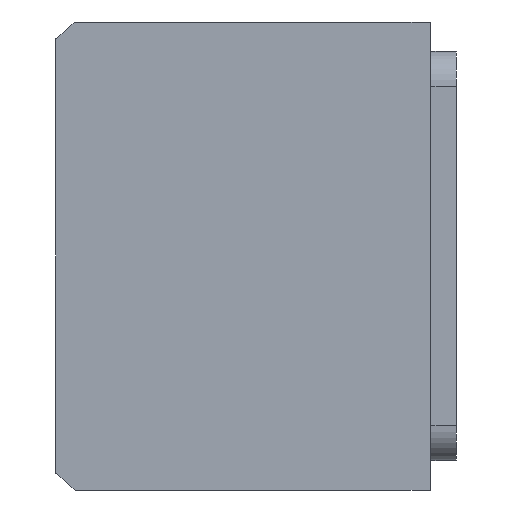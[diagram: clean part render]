
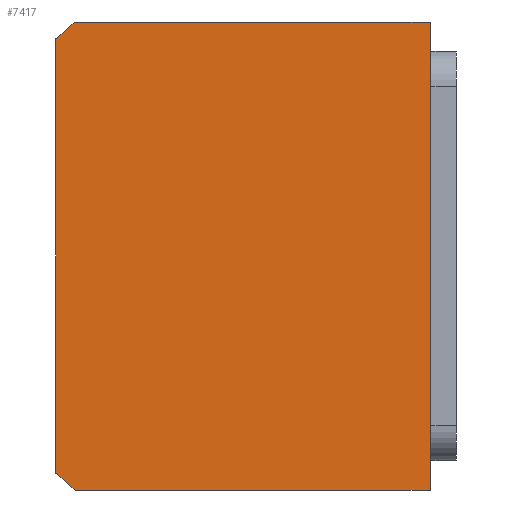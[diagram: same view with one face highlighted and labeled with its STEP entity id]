
A CAD part, front view. The second image highlights one B-rep face of the part: STEP entity #7417.
In plain terms, the highlighted planar face has unit normal (0, -1, 0) as drawn and (0, 0, -1) by its records, which use the part's own axes.
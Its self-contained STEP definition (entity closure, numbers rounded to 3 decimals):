
#253 = CARTESIAN_POINT ( 'NONE',  ( 40., 32., 0. ) ) ;
#295 = DIRECTION ( 'NONE',  ( 0., 1., 0. ) ) ;
#402 = DIRECTION ( 'NONE',  ( 1., 0., 0. ) ) ;
#966 = ORIENTED_EDGE ( 'NONE', *, *, #9429, .F. ) ;
#1049 = EDGE_CURVE ( 'NONE', #9456, #8635, #7611, .T. ) ;
#1065 = CARTESIAN_POINT ( 'NONE',  ( 0., 0., 0. ) ) ;
#1357 = VERTEX_POINT ( 'NONE', #7513 ) ;
#1451 = CIRCLE ( 'NONE', #3426, 51. ) ;
#2133 = DIRECTION ( 'NONE',  ( 0., 0., 1. ) ) ;
#2450 = CARTESIAN_POINT ( 'NONE',  ( -40., -32., 0. ) ) ;
#3300 = VECTOR ( 'NONE', #11671, 1000. ) ;
#3426 = AXIS2_PLACEMENT_3D ( 'NONE', #5897, #13439, #7002 ) ;
#3661 = EDGE_LOOP ( 'NONE', ( #6371, #11250, #8564, #12315, #5656, #966 ) ) ;
#3907 = AXIS2_PLACEMENT_3D ( 'NONE', #12196, #5719, #13266 ) ;
#3982 = VERTEX_POINT ( 'NONE', #8075 ) ;
#4172 = EDGE_CURVE ( 'NONE', #1357, #8538, #6146, .T. ) ;
#4721 = VECTOR ( 'NONE', #295, 1000. ) ;
#4772 = AXIS2_PLACEMENT_3D ( 'NONE', #1065, #2133, #9664 ) ;
#4979 = EDGE_CURVE ( 'NONE', #8635, #1357, #13229, .T. ) ;
#5602 = CIRCLE ( 'NONE', #3907, 51. ) ;
#5656 = ORIENTED_EDGE ( 'NONE', *, *, #6126, .F. ) ;
#5719 = DIRECTION ( 'NONE',  ( 0., 0., 1. ) ) ;
#5897 = CARTESIAN_POINT ( 'NONE',  ( 0., 3., 0. ) ) ;
#5974 = VECTOR ( 'NONE', #402, 1000. ) ;
#5976 = VERTEX_POINT ( 'NONE', #13219 ) ;
#6126 = EDGE_CURVE ( 'NONE', #5976, #9456, #1451, .T. ) ;
#6146 = LINE ( 'NONE', #13818, #3300 ) ;
#6371 = ORIENTED_EDGE ( 'NONE', *, *, #13466, .F. ) ;
#6818 = CARTESIAN_POINT ( 'NONE',  ( 40., -28.639, 0. ) ) ;
#7002 = DIRECTION ( 'NONE',  ( 1., 0., 0. ) ) ;
#7417 = ADVANCED_FACE ( 'NONE', ( #11190 ), #12859, .F. ) ;
#7513 = CARTESIAN_POINT ( 'NONE',  ( -40., 32., 0. ) ) ;
#7611 = LINE ( 'NONE', #253, #4721 ) ;
#8075 = CARTESIAN_POINT ( 'NONE',  ( -37.094, -32., 0. ) ) ;
#8279 = CARTESIAN_POINT ( 'NONE',  ( -40., 32., 0. ) ) ;
#8538 = VERTEX_POINT ( 'NONE', #8698 ) ;
#8564 = ORIENTED_EDGE ( 'NONE', *, *, #4979, .F. ) ;
#8635 = VERTEX_POINT ( 'NONE', #8926 ) ;
#8698 = CARTESIAN_POINT ( 'NONE',  ( -40., -28.639, 0. ) ) ;
#8926 = CARTESIAN_POINT ( 'NONE',  ( 40., 32., 0. ) ) ;
#9429 = EDGE_CURVE ( 'NONE', #3982, #5976, #11750, .T. ) ;
#9456 = VERTEX_POINT ( 'NONE', #6818 ) ;
#9664 = DIRECTION ( 'NONE',  ( 1., 0., 0. ) ) ;
#10380 = VECTOR ( 'NONE', #11516, 1000. ) ;
#11190 = FACE_OUTER_BOUND ( 'NONE', #3661, .T. ) ;
#11250 = ORIENTED_EDGE ( 'NONE', *, *, #4172, .F. ) ;
#11516 = DIRECTION ( 'NONE',  ( -1., 0., 0. ) ) ;
#11671 = DIRECTION ( 'NONE',  ( 0., -1., 0. ) ) ;
#11750 = LINE ( 'NONE', #2450, #5974 ) ;
#12196 = CARTESIAN_POINT ( 'NONE',  ( 0., 3., 0. ) ) ;
#12315 = ORIENTED_EDGE ( 'NONE', *, *, #1049, .F. ) ;
#12859 = PLANE ( 'NONE',  #4772 ) ;
#13219 = CARTESIAN_POINT ( 'NONE',  ( 37.094, -32., 0. ) ) ;
#13229 = LINE ( 'NONE', #8279, #10380 ) ;
#13266 = DIRECTION ( 'NONE',  ( 1., 0., 0. ) ) ;
#13439 = DIRECTION ( 'NONE',  ( 0., 0., 1. ) ) ;
#13466 = EDGE_CURVE ( 'NONE', #8538, #3982, #5602, .T. ) ;
#13818 = CARTESIAN_POINT ( 'NONE',  ( -40., 32., 0. ) ) ;
